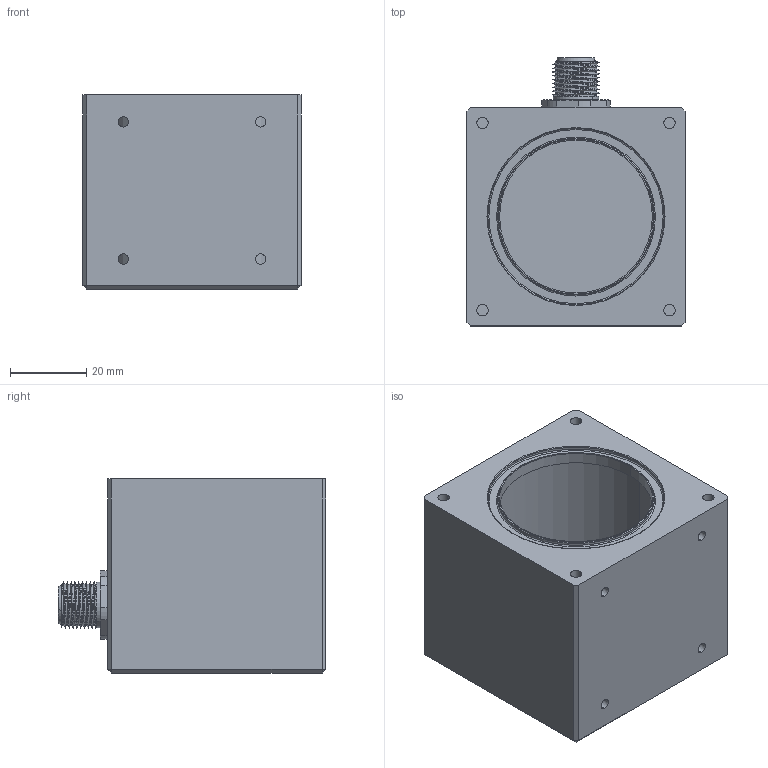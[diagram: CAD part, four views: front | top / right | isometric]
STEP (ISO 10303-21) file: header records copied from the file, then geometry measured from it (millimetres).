
FILE_DESCRIPTION (( 'STEP AP214' ), '1' );
FILE_NAME ('Drawing-MC-S-CR-508-SCM-NNN12T-PRM.STEP', '2016-01-22T09:48:30', ( '' ), ( '' ), 'SwSTEP 2.0', 'SolidWorks 2015', '' );
FILE_SCHEMA (( 'AUTOMOTIVE_DESIGN' ));
Length unit declared in the file: millimetre
Products named in the file (1): Drawing-MC-S-CR-508-SCM-NNN12T-PRM
Bounding box: 57.15 x 70.15 x 50.8 mm (x, y, z)
Surface area: 25497.2 mm2 (no closed solid volume)
Topology: 0 solids, 9 shells, 121 faces, 328 edges, 208 vertices
Faces by surface type: cylinder 66, plane 32, torus 8, cone 8, sphere 5, bspline 2
Entity records: 5980 total; most frequent: CARTESIAN_POINT 1796, DIRECTION 611, ORIENTED_EDGE 555, EDGE_CURVE 308, AXIS2_PLACEMENT_3D 248, VERTEX_POINT 198, EDGE_LOOP 137, CIRCLE 128
